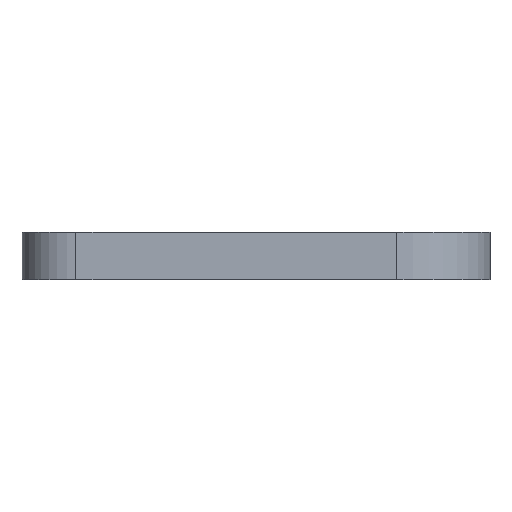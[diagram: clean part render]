
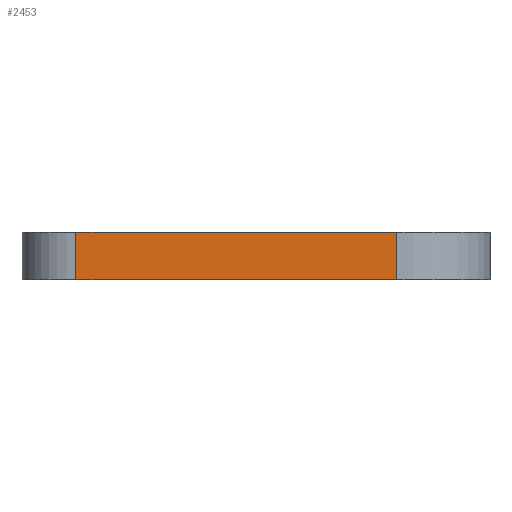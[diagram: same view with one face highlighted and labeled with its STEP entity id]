
A CAD part, left-side view. The second image highlights one B-rep face of the part: STEP entity #2453.
In plain terms, the highlighted planar face has unit normal (-1, 0, 0).
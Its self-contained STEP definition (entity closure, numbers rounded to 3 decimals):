
#72 = PLANE('',#73);
#73 = AXIS2_PLACEMENT_3D('',#74,#75,#76);
#74 = CARTESIAN_POINT('',(0.,3.707,0.));
#75 = DIRECTION('',(0.,0.,1.));
#76 = DIRECTION('',(1.,0.,0.));
#212 = PLANE('',#213);
#213 = AXIS2_PLACEMENT_3D('',#214,#215,#216);
#214 = CARTESIAN_POINT('',(0.,3.707,3.5));
#215 = DIRECTION('',(0.,0.,1.));
#216 = DIRECTION('',(1.,0.,0.));
#510 = VERTEX_POINT('',#511);
#511 = CARTESIAN_POINT('',(-46.,19.5,0.));
#526 = CYLINDRICAL_SURFACE('',#527,4.);
#527 = AXIS2_PLACEMENT_3D('',#528,#529,#530);
#528 = CARTESIAN_POINT('',(-42.,19.5,0.));
#529 = DIRECTION('',(-0.,-0.,-1.));
#530 = DIRECTION('',(1.,0.,0.));
#538 = EDGE_CURVE('',#539,#510,#541,.T.);
#539 = VERTEX_POINT('',#540);
#540 = CARTESIAN_POINT('',(-46.,-4.3,0.));
#541 = SURFACE_CURVE('',#542,(#546,#553),.PCURVE_S1.);
#542 = LINE('',#543,#544);
#543 = CARTESIAN_POINT('',(-46.,-4.3,0.));
#544 = VECTOR('',#545,1.);
#545 = DIRECTION('',(0.,1.,0.));
#546 = PCURVE('',#72,#547);
#547 = DEFINITIONAL_REPRESENTATION('',(#548),#552);
#548 = LINE('',#549,#550);
#549 = CARTESIAN_POINT('',(-46.,-8.007));
#550 = VECTOR('',#551,1.);
#551 = DIRECTION('',(0.,1.));
#552 = ( GEOMETRIC_REPRESENTATION_CONTEXT(2) 
PARAMETRIC_REPRESENTATION_CONTEXT() REPRESENTATION_CONTEXT('2D SPACE',''
  ) );
#553 = PCURVE('',#554,#559);
#554 = PLANE('',#555);
#555 = AXIS2_PLACEMENT_3D('',#556,#557,#558);
#556 = CARTESIAN_POINT('',(-46.,-4.3,0.));
#557 = DIRECTION('',(-1.,0.,0.));
#558 = DIRECTION('',(0.,1.,0.));
#559 = DEFINITIONAL_REPRESENTATION('',(#560),#564);
#560 = LINE('',#561,#562);
#561 = CARTESIAN_POINT('',(0.,0.));
#562 = VECTOR('',#563,1.);
#563 = DIRECTION('',(1.,0.));
#564 = ( GEOMETRIC_REPRESENTATION_CONTEXT(2) 
PARAMETRIC_REPRESENTATION_CONTEXT() REPRESENTATION_CONTEXT('2D SPACE',''
  ) );
#583 = CYLINDRICAL_SURFACE('',#584,6.9);
#584 = AXIS2_PLACEMENT_3D('',#585,#586,#587);
#585 = CARTESIAN_POINT('',(-39.1,-4.3,0.));
#586 = DIRECTION('',(-0.,-0.,-1.));
#587 = DIRECTION('',(1.,0.,0.));
#1560 = VERTEX_POINT('',#1561);
#1561 = CARTESIAN_POINT('',(-46.,19.5,3.5));
#1583 = EDGE_CURVE('',#1584,#1560,#1586,.T.);
#1584 = VERTEX_POINT('',#1585);
#1585 = CARTESIAN_POINT('',(-46.,-4.3,3.5));
#1586 = SURFACE_CURVE('',#1587,(#1591,#1598),.PCURVE_S1.);
#1587 = LINE('',#1588,#1589);
#1588 = CARTESIAN_POINT('',(-46.,-4.3,3.5));
#1589 = VECTOR('',#1590,1.);
#1590 = DIRECTION('',(0.,1.,0.));
#1591 = PCURVE('',#212,#1592);
#1592 = DEFINITIONAL_REPRESENTATION('',(#1593),#1597);
#1593 = LINE('',#1594,#1595);
#1594 = CARTESIAN_POINT('',(-46.,-8.007));
#1595 = VECTOR('',#1596,1.);
#1596 = DIRECTION('',(0.,1.));
#1597 = ( GEOMETRIC_REPRESENTATION_CONTEXT(2) 
PARAMETRIC_REPRESENTATION_CONTEXT() REPRESENTATION_CONTEXT('2D SPACE',''
  ) );
#1598 = PCURVE('',#554,#1599);
#1599 = DEFINITIONAL_REPRESENTATION('',(#1600),#1604);
#1600 = LINE('',#1601,#1602);
#1601 = CARTESIAN_POINT('',(0.,-3.5));
#1602 = VECTOR('',#1603,1.);
#1603 = DIRECTION('',(1.,0.));
#1604 = ( GEOMETRIC_REPRESENTATION_CONTEXT(2) 
PARAMETRIC_REPRESENTATION_CONTEXT() REPRESENTATION_CONTEXT('2D SPACE',''
  ) );
#2405 = EDGE_CURVE('',#510,#1560,#2406,.T.);
#2406 = SURFACE_CURVE('',#2407,(#2411,#2418),.PCURVE_S1.);
#2407 = LINE('',#2408,#2409);
#2408 = CARTESIAN_POINT('',(-46.,19.5,0.));
#2409 = VECTOR('',#2410,1.);
#2410 = DIRECTION('',(0.,0.,1.));
#2411 = PCURVE('',#526,#2412);
#2412 = DEFINITIONAL_REPRESENTATION('',(#2413),#2417);
#2413 = LINE('',#2414,#2415);
#2414 = CARTESIAN_POINT('',(-3.142,0.));
#2415 = VECTOR('',#2416,1.);
#2416 = DIRECTION('',(-0.,-1.));
#2417 = ( GEOMETRIC_REPRESENTATION_CONTEXT(2) 
PARAMETRIC_REPRESENTATION_CONTEXT() REPRESENTATION_CONTEXT('2D SPACE',''
  ) );
#2418 = PCURVE('',#554,#2419);
#2419 = DEFINITIONAL_REPRESENTATION('',(#2420),#2424);
#2420 = LINE('',#2421,#2422);
#2421 = CARTESIAN_POINT('',(23.8,0.));
#2422 = VECTOR('',#2423,1.);
#2423 = DIRECTION('',(0.,-1.));
#2424 = ( GEOMETRIC_REPRESENTATION_CONTEXT(2) 
PARAMETRIC_REPRESENTATION_CONTEXT() REPRESENTATION_CONTEXT('2D SPACE',''
  ) );
#2453 = ADVANCED_FACE('',(#2454),#554,.T.);
#2454 = FACE_BOUND('',#2455,.T.);
#2455 = EDGE_LOOP('',(#2456,#2477,#2478,#2479));
#2456 = ORIENTED_EDGE('',*,*,#2457,.T.);
#2457 = EDGE_CURVE('',#539,#1584,#2458,.T.);
#2458 = SURFACE_CURVE('',#2459,(#2463,#2470),.PCURVE_S1.);
#2459 = LINE('',#2460,#2461);
#2460 = CARTESIAN_POINT('',(-46.,-4.3,0.));
#2461 = VECTOR('',#2462,1.);
#2462 = DIRECTION('',(0.,0.,1.));
#2463 = PCURVE('',#554,#2464);
#2464 = DEFINITIONAL_REPRESENTATION('',(#2465),#2469);
#2465 = LINE('',#2466,#2467);
#2466 = CARTESIAN_POINT('',(0.,0.));
#2467 = VECTOR('',#2468,1.);
#2468 = DIRECTION('',(0.,-1.));
#2469 = ( GEOMETRIC_REPRESENTATION_CONTEXT(2) 
PARAMETRIC_REPRESENTATION_CONTEXT() REPRESENTATION_CONTEXT('2D SPACE',''
  ) );
#2470 = PCURVE('',#583,#2471);
#2471 = DEFINITIONAL_REPRESENTATION('',(#2472),#2476);
#2472 = LINE('',#2473,#2474);
#2473 = CARTESIAN_POINT('',(-3.142,0.));
#2474 = VECTOR('',#2475,1.);
#2475 = DIRECTION('',(-0.,-1.));
#2476 = ( GEOMETRIC_REPRESENTATION_CONTEXT(2) 
PARAMETRIC_REPRESENTATION_CONTEXT() REPRESENTATION_CONTEXT('2D SPACE',''
  ) );
#2477 = ORIENTED_EDGE('',*,*,#1583,.T.);
#2478 = ORIENTED_EDGE('',*,*,#2405,.F.);
#2479 = ORIENTED_EDGE('',*,*,#538,.F.);
